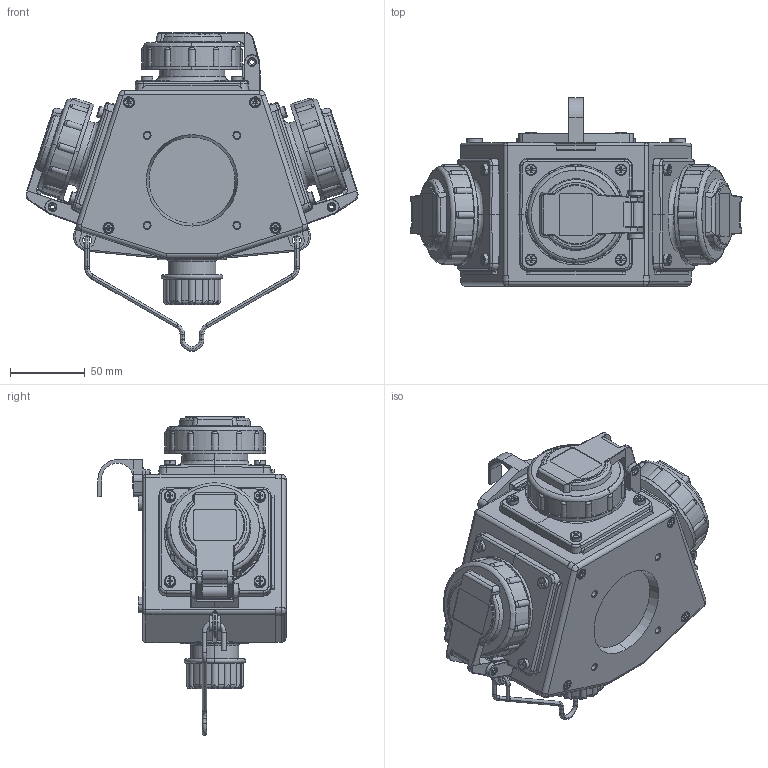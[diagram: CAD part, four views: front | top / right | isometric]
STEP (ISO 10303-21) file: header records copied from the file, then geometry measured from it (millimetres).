
FILE_DESCRIPTION((''),'2;1');
FILE_NAME('1110289_ASM_SW0001','2018-05-08T',('gisse'),('MENNEKES'),'PRO/ENGINEER BY PARAMETRIC TECHNOLOGY CORPORATION, 2015440','PRO/ENGINEER BY PARAMETRIC TECHNOLOGY CORPORATION, 2015440','');
FILE_SCHEMA(('AUTOMOTIVE_DESIGN { 1 0 10303 214 1 1 1 1 }'));
Products named in the file (1): 1110289_ASM_SW0001
Bounding box: 221.62 x 125.5 x 212.58 mm (x, y, z)
Volume: 1682655.7 mm3; surface area: 146608.9 mm2
Topology: 4 solids, 4 shells, 2172 faces, 5742 edges, 3630 vertices
Faces by surface type: plane 859, cylinder 544, cone 264, torus 200, extrusion 172, bspline 131, sphere 2
Entity records: 124835 total; most frequent: CARTESIAN_POINT 31340, ORIENTED_EDGE 11412, DIRECTION 9888, PRESENTATION_STYLE_ASSIGNMENT 7878, STYLED_ITEM 5880, CURVE_STYLE 5876, EDGE_CURVE 5706, FILL_AREA_STYLE_COLOUR 3968
